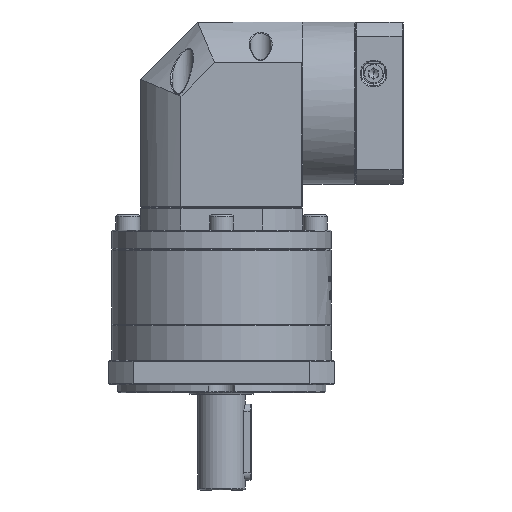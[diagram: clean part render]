
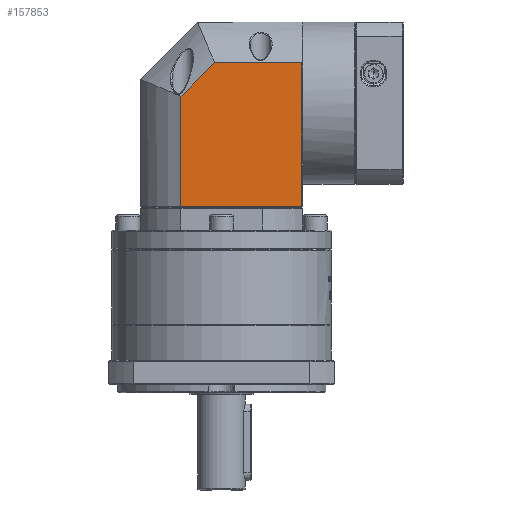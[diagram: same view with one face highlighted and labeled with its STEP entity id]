
A CAD part, front view. The second image highlights one B-rep face of the part: STEP entity #157853.
In plain terms, the highlighted planar face has unit normal (0, -1, 0).
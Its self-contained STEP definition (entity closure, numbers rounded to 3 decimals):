
#3889 = CARTESIAN_POINT ( 'NONE',  ( 51.403, 96.108, -89.66 ) ) ;
#12163 = PLANE ( 'NONE',  #118475 ) ;
#13332 = CARTESIAN_POINT ( 'NONE',  ( 51.403, 96.108, 6.84 ) ) ;
#13947 = VECTOR ( 'NONE', #17453, 1000. ) ;
#14112 = ORIENTED_EDGE ( 'NONE', *, *, #77103, .F. ) ;
#17298 = CARTESIAN_POINT ( 'NONE',  ( 50.903, 96.108, -14.446 ) ) ;
#17453 = DIRECTION ( 'NONE',  ( 1., 0., 0. ) ) ;
#17987 = CARTESIAN_POINT ( 'NONE',  ( 50.903, 96.108, -89.66 ) ) ;
#23975 = CARTESIAN_POINT ( 'NONE',  ( -12.31, 96.108, -31.977 ) ) ;
#25649 = EDGE_CURVE ( 'NONE', #61245, #173068, #109586, .T. ) ;
#25663 = LINE ( 'NONE', #166341, #83183 ) ;
#28614 = DIRECTION ( 'NONE',  ( 1., 0., 0. ) ) ;
#37943 = VERTEX_POINT ( 'NONE', #17298 ) ;
#38647 = EDGE_CURVE ( 'NONE', #37943, #173068, #154964, .T. ) ;
#39396 = DIRECTION ( 'NONE',  ( 0.707, 0., 0.707 ) ) ;
#48665 = FACE_OUTER_BOUND ( 'NONE', #56034, .T. ) ;
#52603 = VECTOR ( 'NONE', #28614, 1000. ) ;
#56034 = EDGE_LOOP ( 'NONE', ( #130943, #92183, #62087, #14112, #162449 ) ) ;
#61245 = VERTEX_POINT ( 'NONE', #154037 ) ;
#62087 = ORIENTED_EDGE ( 'NONE', *, *, #123771, .F. ) ;
#76214 = VECTOR ( 'NONE', #122749, 1000. ) ;
#77103 = EDGE_CURVE ( 'NONE', #101375, #143477, #122240, .T. ) ;
#83183 = VECTOR ( 'NONE', #126508, 1000. ) ;
#84514 = CARTESIAN_POINT ( 'NONE',  ( 51.403, 96.108, -14.446 ) ) ;
#92183 = ORIENTED_EDGE ( 'NONE', *, *, #38647, .F. ) ;
#95379 = LINE ( 'NONE', #84514, #52603 ) ;
#99780 = CARTESIAN_POINT ( 'NONE',  ( -12.31, 96.108, -31.977 ) ) ;
#101375 = VERTEX_POINT ( 'NONE', #99780 ) ;
#108939 = DIRECTION ( 'NONE',  ( -1., 0., 0. ) ) ;
#109586 = LINE ( 'NONE', #3889, #13947 ) ;
#118475 = AXIS2_PLACEMENT_3D ( 'NONE', #13332, #133898, #108939 ) ;
#122240 = LINE ( 'NONE', #23975, #137098 ) ;
#122749 = DIRECTION ( 'NONE',  ( 0., 0., -1. ) ) ;
#123771 = EDGE_CURVE ( 'NONE', #143477, #37943, #95379, .T. ) ;
#126508 = DIRECTION ( 'NONE',  ( 0., 0., 1. ) ) ;
#130943 = ORIENTED_EDGE ( 'NONE', *, *, #25649, .T. ) ;
#131185 = CARTESIAN_POINT ( 'NONE',  ( 5.221, 96.108, -14.446 ) ) ;
#133898 = DIRECTION ( 'NONE',  ( 0., 1., 0. ) ) ;
#137098 = VECTOR ( 'NONE', #39396, 1000. ) ;
#143477 = VERTEX_POINT ( 'NONE', #131185 ) ;
#153752 = EDGE_CURVE ( 'NONE', #61245, #101375, #25663, .T. ) ;
#154037 = CARTESIAN_POINT ( 'NONE',  ( -12.31, 96.108, -89.66 ) ) ;
#154964 = LINE ( 'NONE', #173200, #76214 ) ;
#157853 = ADVANCED_FACE ( 'NONE', ( #48665 ), #12163, .F. ) ;
#162449 = ORIENTED_EDGE ( 'NONE', *, *, #153752, .F. ) ;
#166341 = CARTESIAN_POINT ( 'NONE',  ( -12.31, 96.108, 6.84 ) ) ;
#173068 = VERTEX_POINT ( 'NONE', #17987 ) ;
#173200 = CARTESIAN_POINT ( 'NONE',  ( 50.903, 96.108, 6.84 ) ) ;
